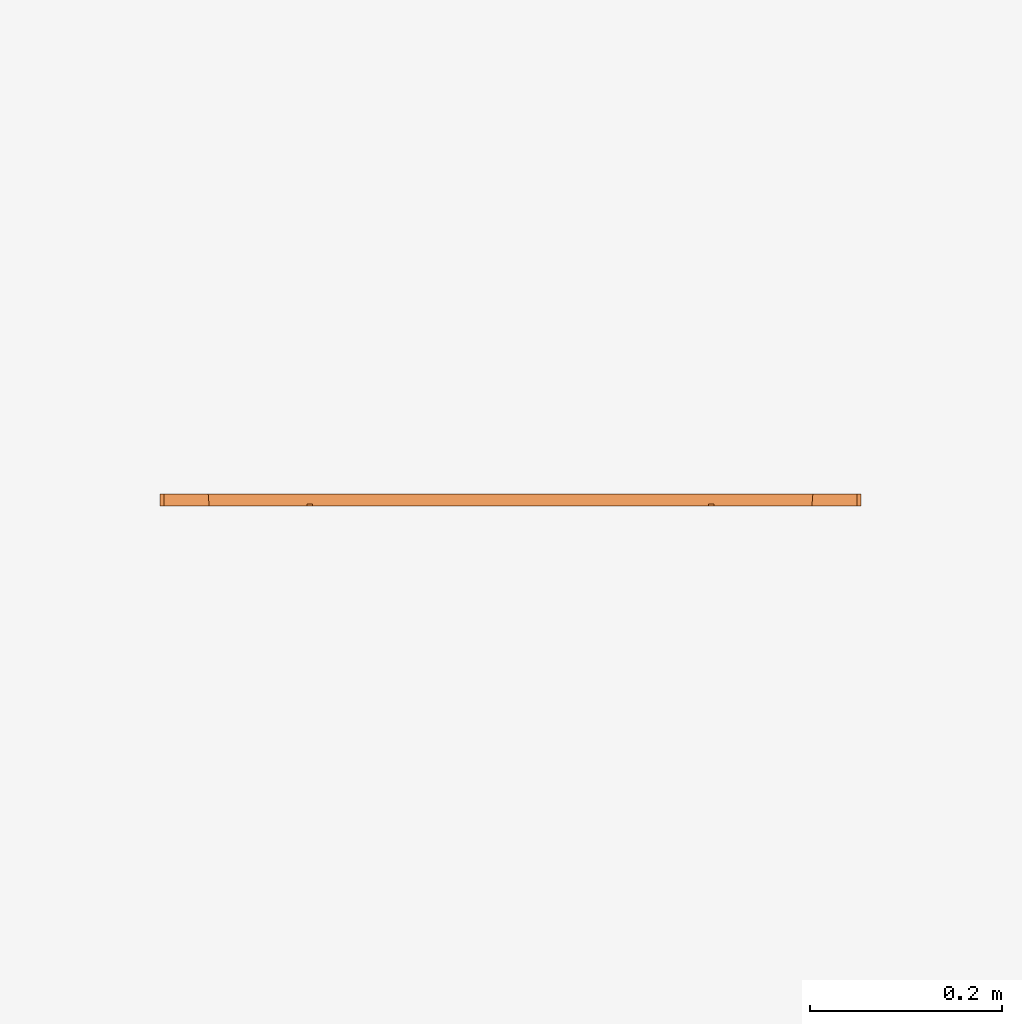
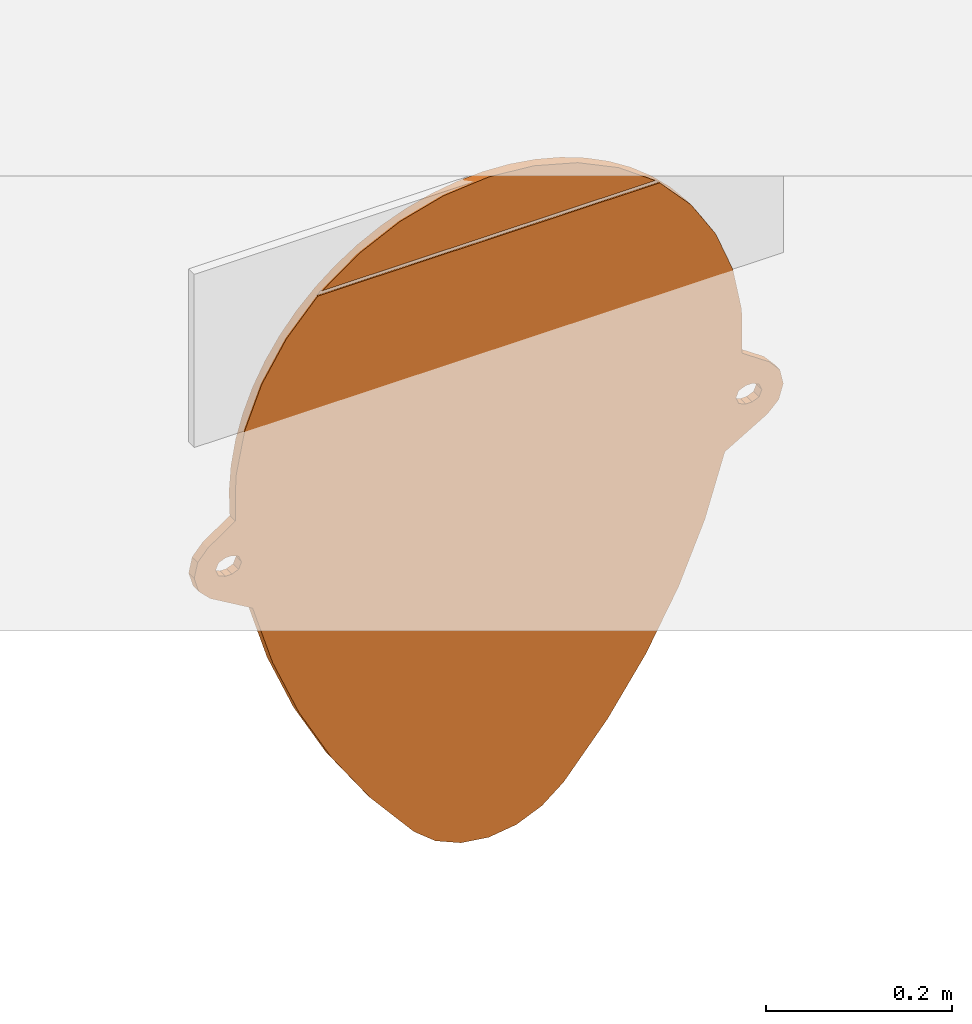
# One storey, part 2 of 2: 1 proxy.
"""IFC2X3 building model written with IfcOpenShell, lengths in millimetres."""

from ifc_helpers import new_model, entity, si_unit, converted_unit, direction, frame, origin, place, context, subcontext, project, spatial, faceted_brep, source, transform, mapped, element, save


model = new_model("IFC2X3")

# Units and contexts
model_context = context("Model", 3, precision=1e-06, world=origin(), true_north=direction((2.0, 6.12303176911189e-17, 1.0)))
context_of_model = context(None, 3, precision=1e-06, world=origin(), true_north=direction((2.0, 6.12303176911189e-17, 1.0)))
body_context = subcontext(model_context, "Body", "Model", "MODEL_VIEW")
ifc_project = project(units=[si_unit("LENGTHUNIT", "METRE", prefix="MILLI"), si_unit("AREAUNIT", "SQUARE_METRE", prefix="MILLI"), si_unit("VOLUMEUNIT", "CUBIC_METRE", prefix="MILLI"), converted_unit("PLANEANGLEUNIT", "DEGREE", entity("IfcRatioMeasure", 0.0174532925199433), si_unit("PLANEANGLEUNIT", "RADIAN"), dimensions=[0, 0, 0, 0, 0, 0, 0]), si_unit("TIMEUNIT", "SECOND")], contexts=[model_context, context_of_model])

# Site, building, storey
site_placement = place(None, origin())
site = spatial("IfcSite", under=ifc_project, at=site_placement, Name="Default", CompositionType="ELEMENT")
building_placement = place(site_placement, origin())
building = spatial("IfcBuilding", under=site, at=building_placement, CompositionType="ELEMENT")
storey_placement = place(building_placement, origin())
storey = spatial("IfcBuildingStorey", under=building, at=storey_placement, Name="Level 1", CompositionType="ELEMENT", Elevation=0.0)

# Proxy
shared_shape = source(origin(), body_context, "Body", "Brep", [
    faceted_brep([(701.375358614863, 0.0, 461.158073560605), (701.375358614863, 12.0, 461.158073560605), (692.890077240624, 12.0, 457.643354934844), (692.890077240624, 0.0, 457.643354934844), (704.890077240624, 12.0, 469.643354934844), (704.890077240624, 0.0, 469.643354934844), (692.890077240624, 12.0, 481.643354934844), (701.375358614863, 12.0, 478.128636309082), (701.375358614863, 0.0, 478.128636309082), (692.890077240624, 0.0, 481.643354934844), (56.7292614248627, 0.0, 461.158073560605), (56.7292614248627, 12.0, 461.158073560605), (48.2439800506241, 12.0, 457.643354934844), (48.2439800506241, 0.0, 457.643354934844), (60.2439800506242, 12.0, 469.643354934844), (60.2439800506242, 0.0, 469.643354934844), (48.2439800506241, 12.0, 481.643354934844), (56.7292614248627, 12.0, 478.128636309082), (56.7292614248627, 0.0, 478.128636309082), (48.2439800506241, 0.0, 481.643354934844), (14.2302477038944, 0.0, 442.18675846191), (7.19336047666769, 0.0, 449.193955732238), (11.5891955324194, 12.0, 444.816667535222), (21.2671349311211, 12.0, 435.179561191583), (4.39431635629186, 12.0, 458.722016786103), (7.19336047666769, 12.0, 449.193955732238), (4.39431635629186, 0.0, 458.722016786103), (1.59527223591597, 0.0, 468.250077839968), (1.59527223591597, 12.0, 468.250077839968), (12.3850190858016, 0.0, 495.129820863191), (18.916978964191, 0.0, 502.609934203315), (18.916978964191, 12.0, 502.609934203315), (9.93347415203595, 12.0, 492.322419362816), (5.85305920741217, 0.0, 487.649707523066), (5.85305920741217, 12.0, 487.649707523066), (3.72416572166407, 12.0, 477.949892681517), (3.72416572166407, 0.0, 477.949892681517), (21.2671349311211, 0.0, 435.179561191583), (52.627055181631, 0.0, 525.774872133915), (53.169647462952, 0.0, 583.329819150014), (51.6380936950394, 12.0, 558.286006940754), (64.1757684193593, 0.0, 639.825231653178), (59.7083731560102, 12.0, 622.748385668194), (96.0267180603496, 12.0, 712.942538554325), (85.2779521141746, 0.0, 693.374873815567), (115.771651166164, 0.0, 742.190861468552), (154.638759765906, 0.0, 784.643354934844), (154.638759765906, 2.0, 784.643354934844), (68.6815675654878, 12.0, 654.012321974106), (134.879279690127, 12.0, 765.009861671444), (160.270857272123, 2.0, 789.643354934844), (160.270857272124, 0.0, 789.643354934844), (205.819131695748, 0.0, 822.4921412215), (240.077099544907, 12.0, 840.083223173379), (256.476488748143, 0.0, 846.730958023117), (310.632875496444, 0.0, 861.589418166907), (270.500299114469, 12.0, 851.588911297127), (158.121733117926, 12.0, 787.763768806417), (157.439864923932, 2.0, 787.160187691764), (334.084234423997, 12.0, 864.915983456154), (366.567028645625, 0.0, 866.595272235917), (366.567028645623, 12.0, 866.595272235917), (183.586661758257, 12.0, 807.999611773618), (301.947776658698, 12.0, 859.89602194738), (80.8308617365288, 12.0, 684.184272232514), (54.0069520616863, 12.0, 590.725804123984), (52.627055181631, 12.0, 525.774872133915), (211.002554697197, 12.0, 825.501632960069), (114.107116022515, 12.0, 739.980495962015), (476.657568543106, 0.0, 846.730958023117), (462.633758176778, 12.0, 851.588911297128), (422.501181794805, 0.0, 861.589418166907), (572.863200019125, 2.0, 789.643354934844), (527.314925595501, 0.0, 822.4921412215), (572.863200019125, 0.0, 789.643354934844), (399.04982286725, 12.0, 864.915983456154), (431.186280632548, 12.0, 859.89602194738), (493.05695774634, 12.0, 840.08322317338), (549.54739553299, 12.0, 807.999611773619), (647.856105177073, 0.0, 693.374873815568), (637.107339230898, 12.0, 712.942538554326), (617.362406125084, 0.0, 742.190861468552), (668.958288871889, 0.0, 639.82523165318), (664.45248972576, 12.0, 654.012321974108), (673.425684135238, 12.0, 622.748385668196), (679.964409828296, 0.0, 583.329819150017), (598.25477760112, 12.0, 765.009861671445), (578.495297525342, 2.0, 784.643354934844), (578.495297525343, 0.0, 784.643354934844), (575.012324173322, 12.0, 787.763768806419), (575.694192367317, 2.0, 787.160187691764), (681.495963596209, 12.0, 558.286006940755), (680.507002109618, 0.0, 525.774872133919), (522.13150259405, 12.0, 825.501632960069), (619.026941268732, 12.0, 739.980495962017), (652.303195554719, 12.0, 684.184272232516), (679.127105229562, 12.0, 590.725804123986), (680.507002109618, 12.0, 525.774872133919), (73.9855739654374, 12.0, 404.121226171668), (73.9855739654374, 0.0, 404.121226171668), (273.693814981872, 0.0, 41.5889879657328), (219.381101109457, 0.0, 105.196775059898), (219.381101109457, 12.0, 105.196775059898), (273.693814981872, 12.0, 41.5889879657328), (171.800759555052, 0.0, 173.985818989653), (171.800759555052, 12.0, 173.985818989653), (131.44363840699, 12.0, 247.246478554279), (131.44363840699, 0.0, 247.246478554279), (98.7260696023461, 0.0, 324.222982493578), (98.7260696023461, 12.0, 324.222982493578), (432.527631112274, 12.0, 19.9274596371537), (432.527631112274, 0.0, 19.9274596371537), (400.797388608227, 0.0, 6.26355969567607), (400.797388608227, 12.0, 6.26355969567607), (366.567028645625, 0.0, 1.59527223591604), (366.567028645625, 12.0, 1.59527223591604), (459.440242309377, 12.0, 41.588987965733), (459.440242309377, 0.0, 41.588987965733), (332.336668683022, 12.0, 6.26355969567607), (332.336668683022, 0.0, 6.26355969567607), (300.606426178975, 0.0, 19.9274596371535), (300.606426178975, 12.0, 19.9274596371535), (659.148483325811, 0.0, 404.12122617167), (634.407987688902, 0.0, 324.222982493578), (634.407987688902, 12.0, 324.222982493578), (659.148483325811, 12.0, 404.12122617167), (601.690418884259, 0.0, 247.246478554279), (601.690418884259, 12.0, 247.246478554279), (561.333297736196, 12.0, 173.985818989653), (561.333297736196, 0.0, 173.985818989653), (513.752956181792, 0.0, 105.196775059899), (513.752956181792, 12.0, 105.196775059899), (711.866922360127, 12.0, 435.179561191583), (711.866922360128, 0.0, 435.179561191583), (720.749038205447, 0.0, 495.129820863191), (727.280998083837, 0.0, 487.649707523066), (723.200582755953, 12.0, 492.322419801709), (714.217078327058, 12.0, 502.609934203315), (729.409891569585, 0.0, 477.949892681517), (731.538785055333, 0.0, 468.250077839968), (731.538785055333, 12.0, 468.250077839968), (729.409891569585, 12.0, 477.949892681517), (727.280998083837, 12.0, 487.649707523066), (714.217078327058, 0.0, 502.609934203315), (728.739740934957, 12.0, 458.722016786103), (728.739740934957, 0.0, 458.722016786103), (718.903809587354, 12.0, 442.18675846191), (718.903809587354, 0.0, 442.18675846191), (725.940696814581, 0.0, 449.193955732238), (725.940696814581, 12.0, 449.193955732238), (31.7586986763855, 0.0, 461.158073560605), (28.2439800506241, 0.0, 469.643354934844), (40.2439800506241, 0.0, 457.643354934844), (672.890077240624, 0.0, 469.643354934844), (31.7586986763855, 0.0, 478.128636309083), (40.2439800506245, 0.0, 481.643354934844), (684.890077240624, 0.0, 457.643354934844), (676.404795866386, 0.0, 461.158073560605), (676.404795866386, 0.0, 478.128636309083), (684.890077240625, 0.0, 481.643354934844), (31.7586986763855, 12.0, 461.158073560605), (40.2439800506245, 12.0, 457.643354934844), (28.2439800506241, 12.0, 469.643354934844), (31.7586986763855, 12.0, 478.128636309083), (672.890077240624, 12.0, 469.643354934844), (40.2439800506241, 12.0, 481.643354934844), (676.404795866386, 12.0, 461.158073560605), (676.404795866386, 12.0, 478.128636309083), (684.890077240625, 12.0, 457.643354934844), (684.890077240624, 12.0, 481.643354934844)], [[[0, 1, 2, 3]], [[4, 1, 0, 5]], [[6, 7, 8, 9]], [[4, 5, 8, 7]], [[10, 11, 12, 13]], [[14, 11, 10, 15]], [[16, 17, 18, 19]], [[14, 15, 18, 17]], [[20, 21, 22, 23]], [[24, 25, 26, 27]], [[25, 21, 26]], [[27, 28, 24]], [[21, 25, 22]], [[29, 30, 31, 32]], [[33, 29, 32, 34]], [[35, 28, 36, 33]], [[20, 23, 37]], [[33, 34, 35]], [[28, 27, 36]], [[38, 39, 40]], [[39, 41, 42]], [[43, 44, 45]], [[46, 47, 45]], [[41, 44, 48]], [[47, 49, 45]], [[50, 51, 52]], [[53, 52, 54]], [[54, 55, 56]], [[57, 58, 50]], [[59, 60, 61]], [[52, 62, 50]], [[60, 59, 55]], [[47, 58, 57]], [[59, 63, 55]], [[44, 43, 64]], [[44, 64, 48]], [[40, 39, 65]], [[42, 65, 39]], [[48, 42, 41]], [[40, 66, 38]], [[67, 52, 53]], [[56, 53, 54]], [[62, 52, 67]], [[45, 49, 68]], [[49, 47, 57]], [[57, 50, 62]], [[68, 43, 45]], [[55, 63, 56]], [[69, 70, 71]], [[72, 73, 74]], [[61, 60, 75]], [[71, 76, 75]], [[73, 77, 69]], [[60, 71, 75]], [[72, 78, 73]], [[79, 80, 81]], [[82, 83, 79]], [[84, 82, 85]], [[86, 87, 81]], [[81, 87, 88]], [[89, 72, 90]], [[89, 90, 87]], [[91, 85, 92]], [[71, 70, 76]], [[69, 77, 70]], [[73, 93, 77]], [[73, 78, 93]], [[89, 78, 72]], [[86, 89, 87]], [[81, 94, 86]], [[81, 80, 94]], [[80, 79, 95]], [[83, 95, 79]], [[84, 83, 82]], [[84, 85, 96]], [[91, 96, 85]], [[92, 97, 91]], [[52, 60, 55, 54]], [[52, 51, 74]], [[74, 73, 69, 52]], [[69, 71, 60, 52]], [[30, 38, 66, 31]], [[98, 99, 37, 23]], [[100, 101, 102, 103]], [[101, 104, 105, 102]], [[106, 105, 104, 107]], [[108, 99, 98, 109]], [[107, 108, 109, 106]], [[110, 111, 112, 113]], [[113, 112, 114, 115]], [[116, 117, 111, 110]], [[118, 119, 120, 121]], [[121, 120, 100, 103]], [[119, 118, 115, 114]], [[122, 123, 124, 125]], [[123, 126, 127, 124]], [[128, 127, 126, 129]], [[129, 130, 131, 128]], [[130, 117, 116, 131]], [[122, 125, 132, 133]], [[134, 135, 136, 137]], [[138, 139, 140, 141]], [[135, 142, 136]], [[134, 137, 143]], [[135, 138, 141, 142]], [[144, 140, 139, 145]], [[132, 146, 147, 133]], [[148, 147, 146, 149]], [[145, 148, 149, 144]], [[143, 137, 97, 92]], [[21, 20, 150, 151]], [[13, 37, 99, 10]], [[37, 152, 150, 20]], [[152, 37, 13]], [[15, 10, 99, 153]], [[117, 100, 120, 111]], [[101, 100, 130, 129]], [[126, 108, 107, 129]], [[104, 101, 129, 107]], [[99, 108, 122, 153]], [[33, 36, 151, 154]], [[27, 26, 151, 36]], [[30, 29, 154, 155]], [[38, 30, 155, 19]], [[41, 39, 38, 44]], [[38, 18, 15, 92]], [[38, 19, 18]], [[38, 88, 46, 45]], [[44, 38, 45]], [[111, 120, 119, 112]], [[117, 130, 100]], [[108, 126, 123, 122]], [[122, 133, 156, 157]], [[133, 147, 0, 3]], [[156, 133, 3]], [[5, 0, 148, 145]], [[153, 122, 157]], [[88, 38, 92, 81]], [[153, 158, 92, 15]], [[79, 81, 92, 82]], [[85, 82, 92]], [[8, 5, 135, 134]], [[5, 139, 138, 135]], [[9, 143, 92, 159]], [[143, 9, 8, 134]], [[159, 92, 158]], [[114, 112, 119]], [[23, 22, 160, 161]], [[23, 161, 12, 98]], [[162, 160, 25, 24]], [[162, 28, 35, 34]], [[66, 17, 16]], [[163, 162, 34, 32]], [[128, 102, 105, 106]], [[116, 121, 103, 131]], [[131, 103, 102, 128]], [[127, 106, 109, 124]], [[98, 11, 14, 164]], [[125, 109, 98, 164]], [[98, 12, 11]], [[66, 97, 14, 17]], [[66, 16, 165, 31]], [[66, 40, 65, 42]], [[31, 165, 163, 32]], [[66, 42, 48, 64]], [[66, 64, 43, 68]], [[66, 68, 49, 57]], [[66, 57, 62, 67]], [[66, 67, 53, 56]], [[66, 56, 63, 59]], [[66, 59, 61, 97]], [[118, 121, 110, 113]], [[116, 110, 121]], [[166, 125, 164]], [[125, 124, 109]], [[127, 128, 106]], [[164, 14, 97, 167]], [[168, 125, 166]], [[132, 2, 1, 146]], [[168, 2, 132, 125]], [[149, 146, 1, 4]], [[4, 7, 142, 141]], [[140, 144, 4, 141]], [[89, 86, 97, 78]], [[94, 80, 97, 86]], [[97, 76, 70, 77]], [[97, 77, 93, 78]], [[75, 76, 97, 61]], [[6, 169, 97, 137]], [[97, 80, 95, 83]], [[7, 6, 137, 136]], [[84, 96, 97, 83]], [[91, 97, 96]], [[97, 169, 167]], [[113, 115, 118]], [[58, 72, 50]], [[87, 58, 47]], [[87, 90, 72, 58]], [[50, 72, 74, 51]], [[47, 46, 88, 87]], [[154, 163, 165, 155]], [[163, 154, 151, 162]], [[150, 160, 162, 151]], [[160, 150, 152, 161]], [[155, 165, 16, 19]], [[161, 152, 13, 12]], [[158, 167, 169, 159]], [[167, 158, 153, 164]], [[157, 166, 164, 153]], [[166, 157, 156, 168]], [[159, 169, 6, 9]], [[168, 156, 3, 2]], [[151, 26, 21]], [[154, 29, 33]], [[0, 147, 148]], [[5, 145, 139]], [[160, 22, 25]], [[162, 24, 28]], [[4, 144, 149]], [[7, 136, 142]]]),
])
proxy_placement = place(storey_placement, frame((-13068.1256226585, 3162.6788631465, -1039.84335493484)))
element("IfcBuildingElementProxy", 1, at=proxy_placement, inside=storey, Name="Closing End Cap (at Male end):Closing End Cap (at Male end):Closing End Cap (at Male end)", ObjectType="Closing End Cap (at Male end)", CompositionType="ELEMENT", context=body_context, shape_type="MappedRepresentation", body=[
    mapped(shared_shape, transform((0.0, 0.0, 0.0), scale=1.0)),
])

save(model, "model.ifc")
